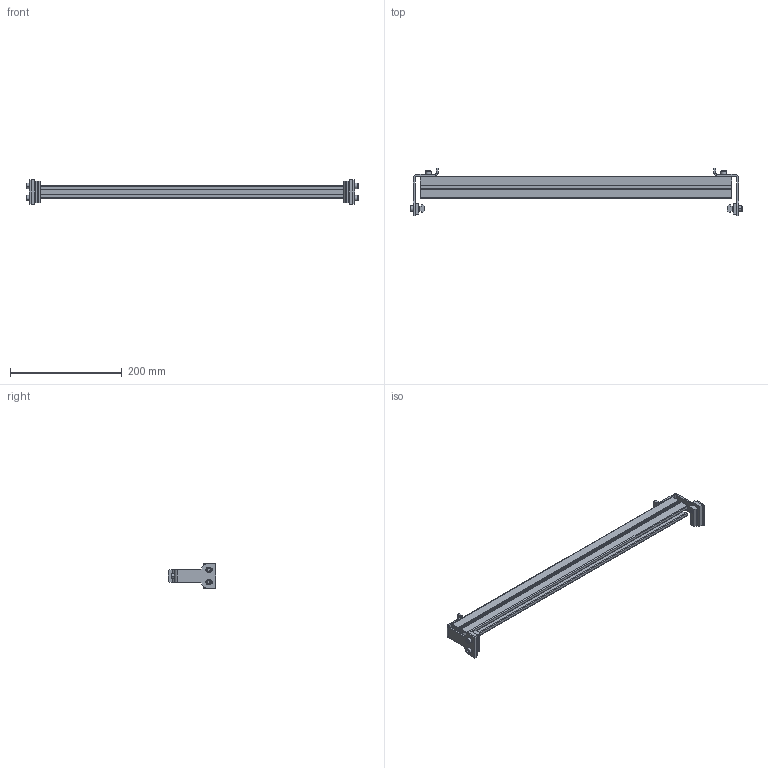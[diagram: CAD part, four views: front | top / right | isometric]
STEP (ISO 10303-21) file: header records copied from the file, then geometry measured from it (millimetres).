
FILE_DESCRIPTION (( 'STEP AP203' ), '1' );
FILE_NAME ('207133-22.STEP', '2020-01-13T20:54:56', ( '' ), ( '' ), 'SwSTEP 2.0', 'SolidWorks 2019', '' );
FILE_SCHEMA (( 'CONFIG_CONTROL_DESIGN' ));
Length unit declared in the file: inch
Products named in the file (8): 639971M_CAE; 9206XXM_920620M; 200626M; 202444; 207135-WW_207135-22; 9206XXM_920614M; 207133-22; 201937
Assembly tree (15 placements, depth 2):
  207133-22
    201937  x2
    207135-WW_207135-22
    202444  x2
    200626M  x2
    639971M_CAE  x2
    9206XXM_920614M  x2
    9206XXM_920620M  x4
Bounding box: 594.57 x 85.8 x 44.45 mm (x, y, z)
Volume: 271004.6 mm3; surface area: 166481.9 mm2
Topology: 15 solids, 15 shells, 428 faces, 1030 edges, 644 vertices
Faces by surface type: plane 258, cylinder 104, cone 66
Entity records: 8258 total; most frequent: CARTESIAN_POINT 1362, DIRECTION 1216, ORIENTED_EDGE 1200, EDGE_CURVE 600, VECTOR 460, LINE 460, VERTEX_POINT 384, AXIS2_PLACEMENT_3D 378
